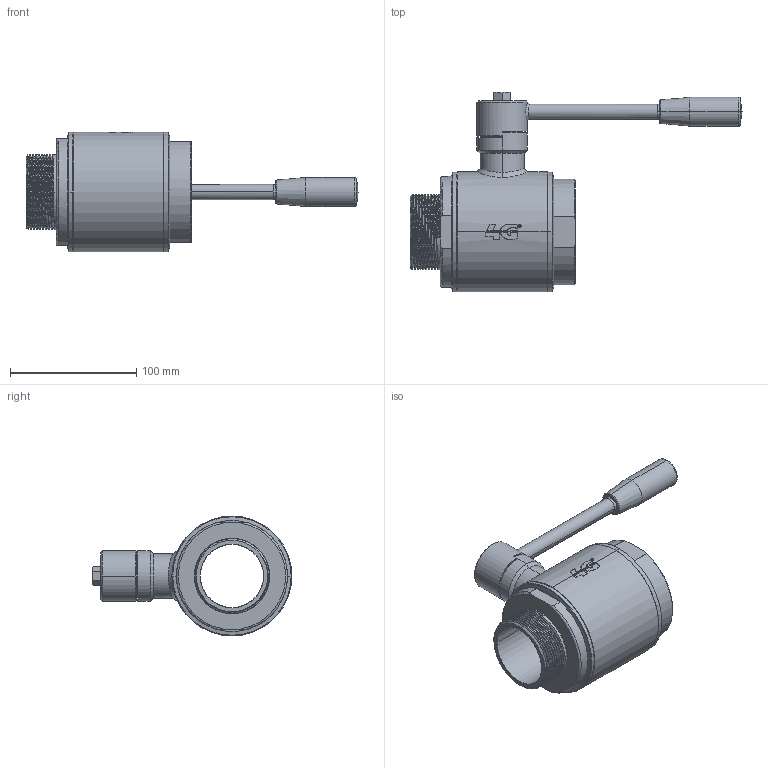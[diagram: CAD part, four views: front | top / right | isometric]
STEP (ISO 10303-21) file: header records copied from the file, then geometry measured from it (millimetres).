
FILE_DESCRIPTION((''),'2;1');
FILE_NAME('13010963810','2026-04-13T11:40:08',('tecnico2'),('CDM Tecnoconsulting'),'CREO PARAMETRIC BY PTC INC, 2024063','CREO PARAMETRIC BY PTC INC, 2024063','');
FILE_SCHEMA(('CONFIG_CONTROL_DESIGN','SHAPE_APPEARANCE_LAYERS_GROUPS'));
Products named in the file (1): 13010963810
Bounding box: 263 x 158.25 x 95 mm (x, y, z)
Volume: 601460.6 mm3; surface area: 130375.7 mm2
Topology: 1 solids, 1 shells, 823 faces, 2284 edges, 1465 vertices
Faces by surface type: plane 369, cylinder 164, extrusion 111, cone 74, bspline 61, torus 30, sphere 14
Entity records: 85479 total; most frequent: CARTESIAN_POINT 56329, ORIENTED_EDGE 4532, DIRECTION 3447, PRESENTATION_STYLE_ASSIGNMENT 2643, STYLED_ITEM 2322, CURVE_STYLE 2321, EDGE_CURVE 2266, VERTEX_POINT 1465
